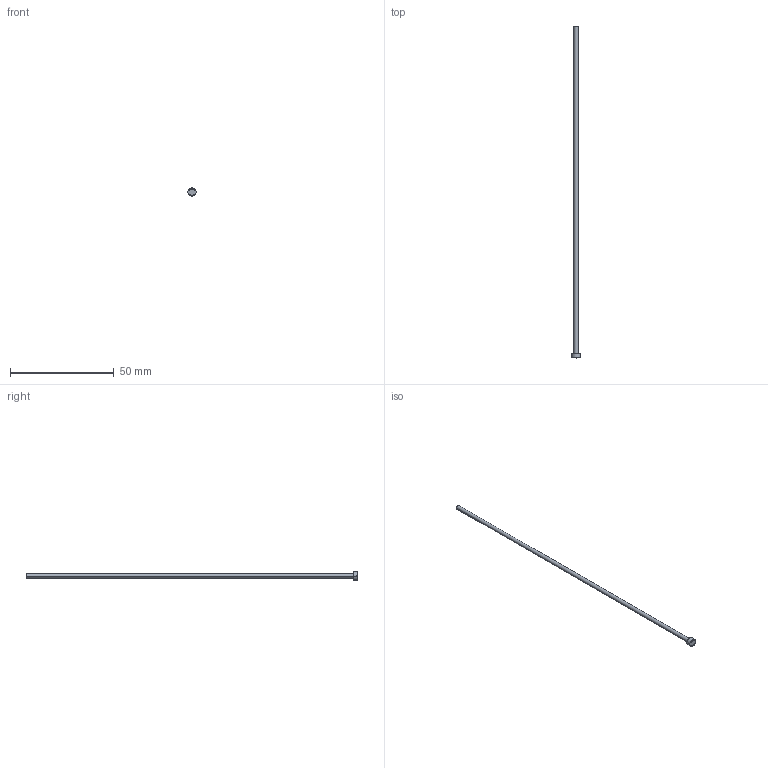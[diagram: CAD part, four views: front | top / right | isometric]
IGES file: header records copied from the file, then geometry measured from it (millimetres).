
Start section: SolidWorks IGES file using analytic representation for surfaces
Global section: file name: C:\Users\User\Downloads\Matripeça 31-08 tar\PB - PINO EXTRATOR TIPO _B_ (CATÁLOGO)\PB02,0\PB02,0160.IGS; native system: SolidWorks 2024; preprocessor: SolidWorks 2024; author: User; date: 260901.140430; units: millimetre
Bounding box: 4 x 160 x 4 mm (x, y, z)
Surface area: 1045.6 mm2 (no closed solid volume)
Topology: 0 solids, 0 shells, 397 faces, 2873 edges, 2873 vertices
Faces by surface type: bspline 383, revolution 14
